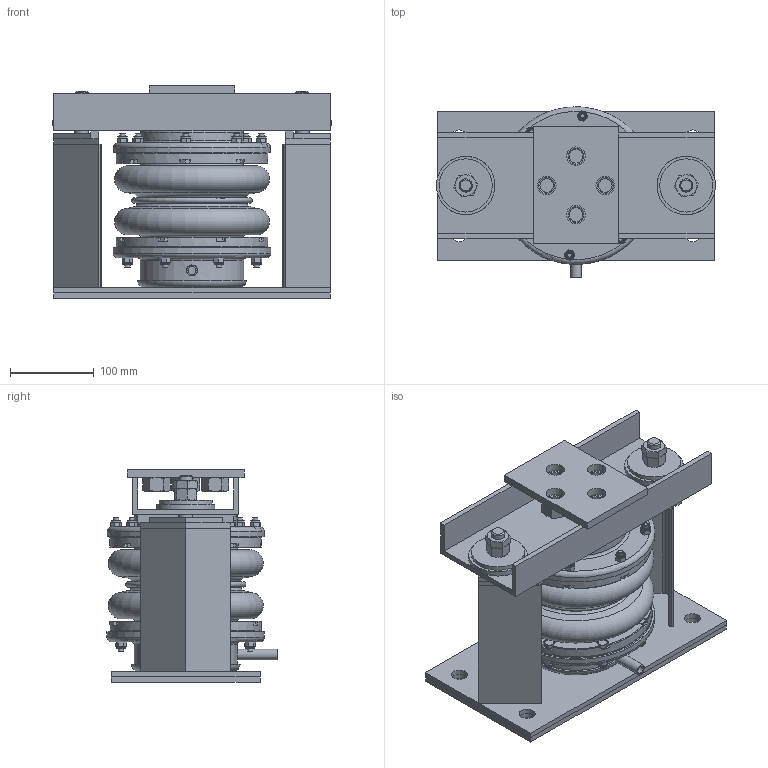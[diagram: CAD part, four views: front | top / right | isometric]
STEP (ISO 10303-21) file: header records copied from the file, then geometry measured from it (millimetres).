
FILE_DESCRIPTION(/* description */ (''),/* implementation_level */ '2;1');
FILE_NAME(/* name */ 'C:\001_Work\Designs\SLR MT\SLR-MT-4.stp',/* time_stamp */ '2016-06-12T12:28:07-04:00',/* author */ ('rramoutar'),/* organization */ ('Mason Industries Inc.'),/* preprocessor_version */ 'ST-DEVELOPER v15.6',/* originating_system */ 'Autodesk Inventor 2015',/* authorisation */ '');
FILE_SCHEMA (('CONFIG_CONTROL_DESIGN'));
Length unit declared in the file: inch
Products named in the file (1): SLR-MT-4 ASSEMBLY
Bounding box: 333.38 x 203.2 x 254 mm (x, y, z)
Volume: 3208789 mm3; surface area: 938258.9 mm2
Topology: 2 solids, 69 shells, 1677 faces, 4116 edges, 2536 vertices
Faces by surface type: plane 1041, cone 263, cylinder 207, torus 166
Full cylindrical faces by diameter (mm): 6.35 x32, 6.604 x16, 7 x32, 7.144 x16, 9.525 x2, 9.6 x1, 10.592 x1, 11.112 x16, 11.125 x16, 12.6 x1, 13 x1, 15.875 x6, 16.307 x6, 17.462 x4, 19.05 x8, 20.93 x1, 22.225 x4, 23.825 x2, 25.4 x1, 26.67 x1, 28 x1, 34 x1, 34.925 x2, 41.275 x2, 60 x1, 63.5 x2, 66 x1, 69.85 x2, 92 x1, 98 x1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
Entity records: 47783 total; most frequent: CARTESIAN_POINT 10472, DIRECTION 7642, ORIENTED_EDGE 7104, EDGE_CURVE 3528, AXIS2_PLACEMENT_3D 3103, VERTEX_POINT 2334, EDGE_LOOP 2222, FACE_OUTER_BOUND 1677
